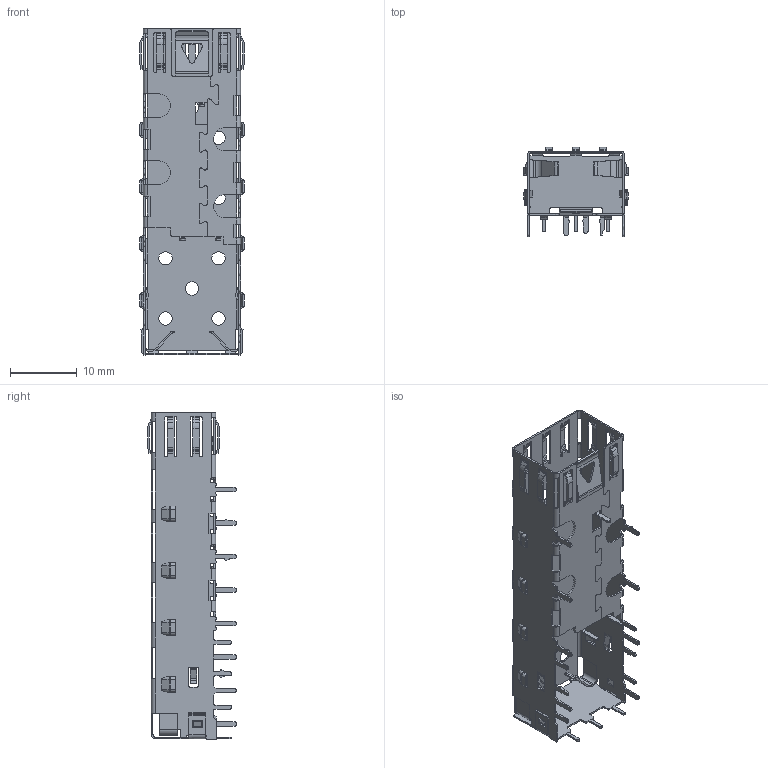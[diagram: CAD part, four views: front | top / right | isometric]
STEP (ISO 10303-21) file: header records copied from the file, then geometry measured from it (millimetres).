
FILE_DESCRIPTION((''),'2;1');
FILE_NAME('46012-020001','2017-03-04T',('glg'),(''),'PRO/ENGINEER BY PARAMETRIC TECHNOLOGY CORPORATION, 2012130','PRO/ENGINEER BY PARAMETRIC TECHNOLOGY CORPORATION, 2012130','');
FILE_SCHEMA(('CONFIG_CONTROL_DESIGN'));
Length unit declared in the file: millimetre
Products named in the file (1): 46012-020001
Bounding box: 15.6 x 13.25 x 48.8 mm (x, y, z)
Volume: 493 mm3; surface area: 4227.4 mm2
Topology: 1 solids, 1 shells, 1523 faces, 3869 edges, 2302 vertices
Faces by surface type: plane 947, cylinder 524, sphere 32, bspline 20
Entity records: 45863 total; most frequent: CARTESIAN_POINT 8668, DIRECTION 7843, ORIENTED_EDGE 7738, EDGE_CURVE 3869, VECTOR 2741, LINE 2741, AXIS2_PLACEMENT_3D 2551, VERTEX_POINT 2302
